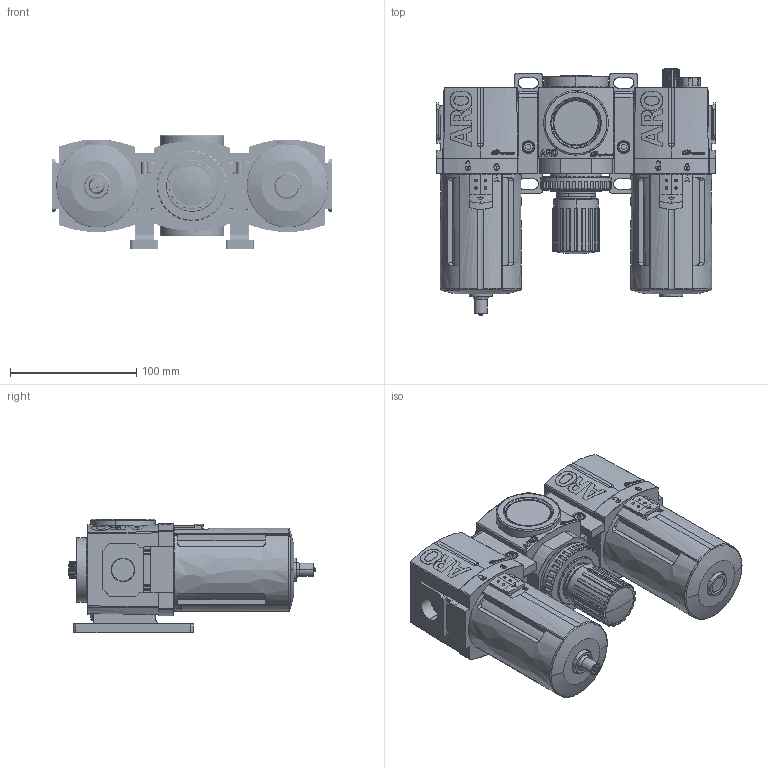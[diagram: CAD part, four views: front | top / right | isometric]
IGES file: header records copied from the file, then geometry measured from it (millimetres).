
Global section: file name: C:\Documents and Settings\szeedyk\Desktop\C383X1-80X_01.igs; native system: NX V4.0; preprocessor: UGS NX IGES V4.0; date: 20090206.141648; units: inch
Bounding box: 220.8 x 194.88 x 89.8 mm (x, y, z)
Surface area: 258749 mm2 (no closed solid volume)
Topology: 0 solids, 0 shells, 3946 faces, 24382 edges, 24332 vertices
Faces by surface type: bspline 3946
